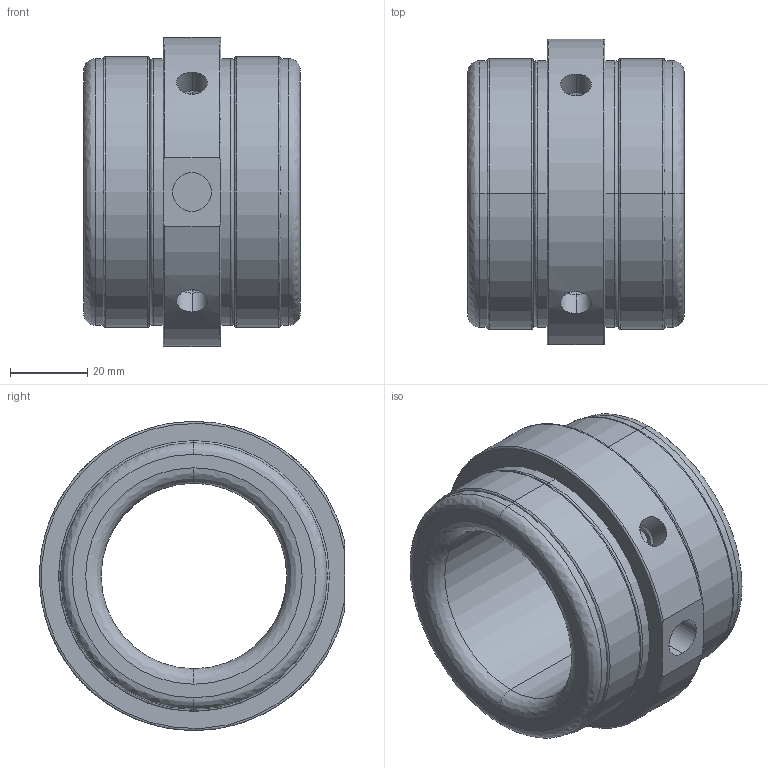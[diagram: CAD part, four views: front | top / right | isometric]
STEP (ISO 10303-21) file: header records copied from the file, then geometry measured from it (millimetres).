
FILE_DESCRIPTION( (''), '2;1');
FILE_NAME ('TGMX25.528.RBG050GCA_9276.stp','2015-03-30T14:01:36',(''),(''),'spGate 11.3.7','spGate','');
FILE_SCHEMA (('AUTOMOTIVE_DESIGN'));
Length unit declared in the file: millimetre
Bounding box: 56 x 79 x 79.97 mm (x, y, z)
Volume: 125197.5 mm3; surface area: 28510.7 mm2
Topology: 1 solids, 1 shells, 79 faces, 168 edges, 92 vertices
Faces by surface type: bspline 38, cylinder 33, plane 8
Entity records: 4227 total; most frequent: CARTESIAN_POINT 1459, ORIENTED_EDGE 320, COLOUR_RGB 240, PRESENTATION_STYLE_ASSIGNMENT 240, STYLED_ITEM 240, DIRECTION 238, EDGE_CURVE 160, DRAUGHTING_PRE_DEFINED_CURVE_FONT 160
